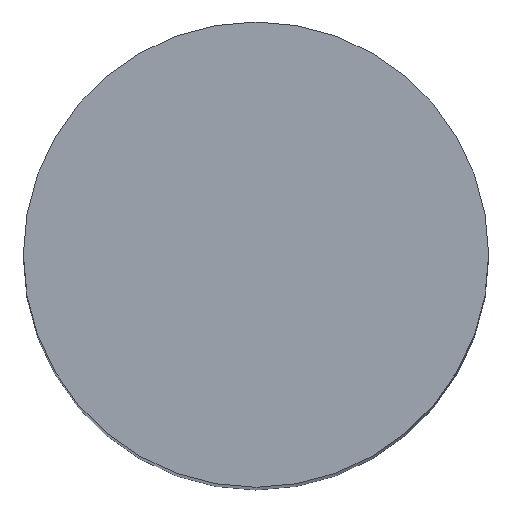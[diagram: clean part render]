
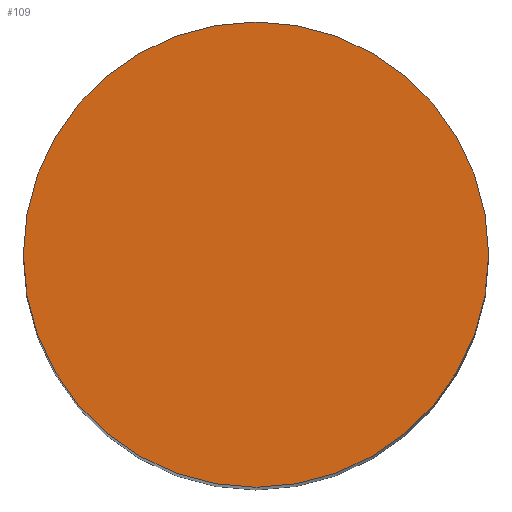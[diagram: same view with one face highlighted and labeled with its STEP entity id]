
A CAD part, top view. The second image highlights one B-rep face of the part: STEP entity #109.
In plain terms, the highlighted planar face has unit normal (0, 0, 1).
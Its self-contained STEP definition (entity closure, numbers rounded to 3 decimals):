
#24 = VERTEX_POINT('',#25);
#25 = CARTESIAN_POINT('',(-37.01,0.,28.));
#32 = CYLINDRICAL_SURFACE('',#33,2.99);
#33 = AXIS2_PLACEMENT_3D('',#34,#35,#36);
#34 = CARTESIAN_POINT('',(-40.,0.,8.));
#35 = DIRECTION('',(-0.,-0.,-1.));
#36 = DIRECTION('',(1.,0.,0.));
#51 = EDGE_CURVE('',#24,#24,#52,.T.);
#52 = SURFACE_CURVE('',#53,(#58,#65),.PCURVE_S1.);
#53 = CIRCLE('',#54,2.99);
#54 = AXIS2_PLACEMENT_3D('',#55,#56,#57);
#55 = CARTESIAN_POINT('',(-40.,0.,28.));
#56 = DIRECTION('',(0.,0.,1.));
#57 = DIRECTION('',(1.,0.,0.));
#58 = PCURVE('',#32,#59);
#59 = DEFINITIONAL_REPRESENTATION('',(#60),#64);
#60 = LINE('',#61,#62);
#61 = CARTESIAN_POINT('',(-0.,-20.));
#62 = VECTOR('',#63,1.);
#63 = DIRECTION('',(-1.,0.));
#64 = ( GEOMETRIC_REPRESENTATION_CONTEXT(2) 
PARAMETRIC_REPRESENTATION_CONTEXT() REPRESENTATION_CONTEXT('2D SPACE',''
  ) );
#65 = PCURVE('',#66,#71);
#66 = PLANE('',#67);
#67 = AXIS2_PLACEMENT_3D('',#68,#69,#70);
#68 = CARTESIAN_POINT('',(-40.,0.,28.));
#69 = DIRECTION('',(0.,0.,1.));
#70 = DIRECTION('',(1.,0.,-0.));
#71 = DEFINITIONAL_REPRESENTATION('',(#72),#76);
#72 = CIRCLE('',#73,2.99);
#73 = AXIS2_PLACEMENT_2D('',#74,#75);
#74 = CARTESIAN_POINT('',(0.,0.));
#75 = DIRECTION('',(1.,0.));
#76 = ( GEOMETRIC_REPRESENTATION_CONTEXT(2) 
PARAMETRIC_REPRESENTATION_CONTEXT() REPRESENTATION_CONTEXT('2D SPACE',''
  ) );
#109 = ADVANCED_FACE('',(#110),#66,.T.);
#110 = FACE_BOUND('',#111,.T.);
#111 = EDGE_LOOP('',(#112));
#112 = ORIENTED_EDGE('',*,*,#51,.T.);
